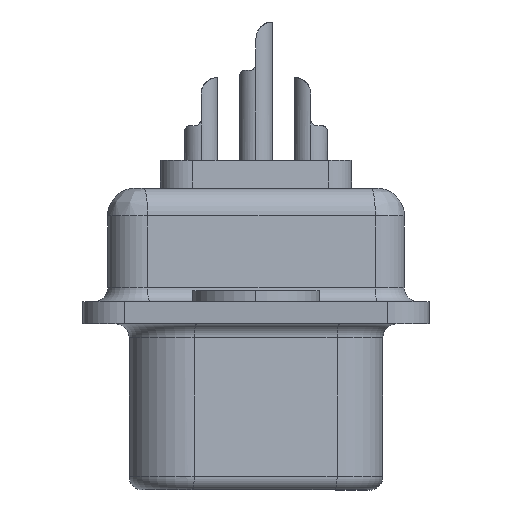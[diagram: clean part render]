
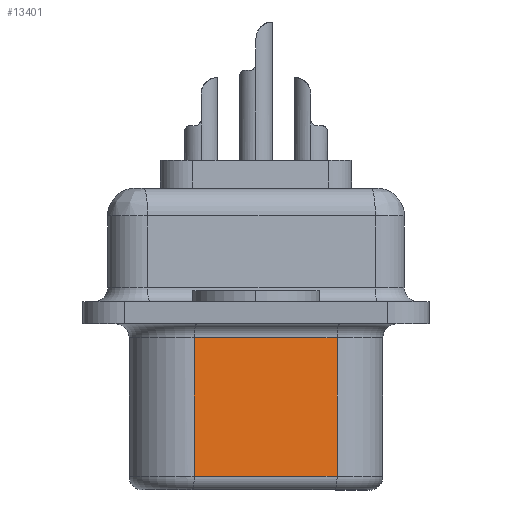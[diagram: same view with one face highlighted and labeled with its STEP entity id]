
A CAD part, left-side view. The second image highlights one B-rep face of the part: STEP entity #13401.
In plain terms, the highlighted planar face has unit normal (-0.985, -0.174, 0).
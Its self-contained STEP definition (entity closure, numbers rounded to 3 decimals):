
#1908=DIRECTION('',(0.174,-0.985,0.));
#1909=VECTOR('',#1908,5.24);
#1910=CARTESIAN_POINT('',(6.422,11.688,-21.61));
#1911=LINE('',#1910,#1909);
#2042=DIRECTION('',(0.,0.,1.));
#2043=VECTOR('',#2042,5.01);
#2044=CARTESIAN_POINT('',(7.332,6.528,-21.61));
#2045=LINE('',#2044,#2043);
#2046=DIRECTION('',(0.174,-0.985,0.));
#2047=VECTOR('',#2046,5.24);
#2048=CARTESIAN_POINT('',(6.422,11.688,-16.6));
#2049=LINE('',#2048,#2047);
#2065=DIRECTION('',(0.,0.,-1.));
#2066=VECTOR('',#2065,5.01);
#2067=CARTESIAN_POINT('',(6.422,11.688,-16.6));
#2068=LINE('',#2067,#2066);
#8523=CARTESIAN_POINT('',(6.422,11.688,-16.6));
#8525=VERTEX_POINT('',#8523);
#8526=CARTESIAN_POINT('',(6.422,11.688,-21.61));
#8527=VERTEX_POINT('',#8526);
#8532=CARTESIAN_POINT('',(7.332,6.528,-16.6));
#8533=VERTEX_POINT('',#8532);
#8534=CARTESIAN_POINT('',(7.332,6.528,-21.61));
#8535=VERTEX_POINT('',#8534);
#13388=CARTESIAN_POINT('',(6.877,9.108,
-19.105));
#13389=DIRECTION('',(0.985,0.174,0.));
#13390=DIRECTION('',(-0.174,0.985,0.));
#13391=AXIS2_PLACEMENT_3D('',#13388,#13389,#13390);
#13392=PLANE('',#13391);
#13394=ORIENTED_EDGE('',*,*,#13393,.T.);
#13395=ORIENTED_EDGE('',*,*,#13383,.F.);
#13396=ORIENTED_EDGE('',*,*,#13161,.F.);
#13398=ORIENTED_EDGE('',*,*,#13397,.F.);
#13399=EDGE_LOOP('',(#13394,#13395,#13396,#13398));
#13400=FACE_OUTER_BOUND('',#13399,.F.);
#13401=ADVANCED_FACE('',(#13400),#13392,.F.);
#13161=EDGE_CURVE('',#8527,#8535,#1911,.T.);
#13383=EDGE_CURVE('',#8535,#8533,#2045,.T.);
#13393=EDGE_CURVE('',#8525,#8533,#2049,.T.);
#13397=EDGE_CURVE('',#8525,#8527,#2068,.T.);
